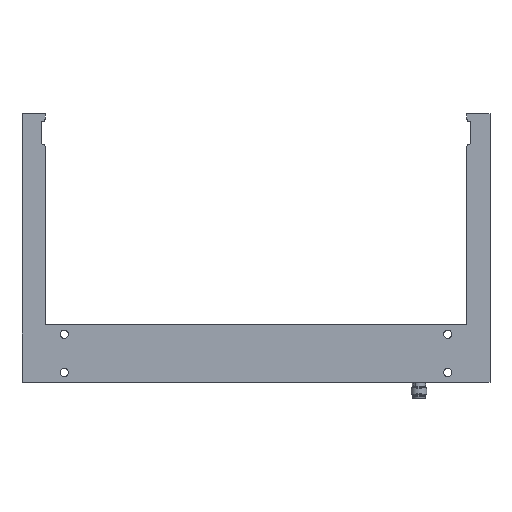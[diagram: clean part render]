
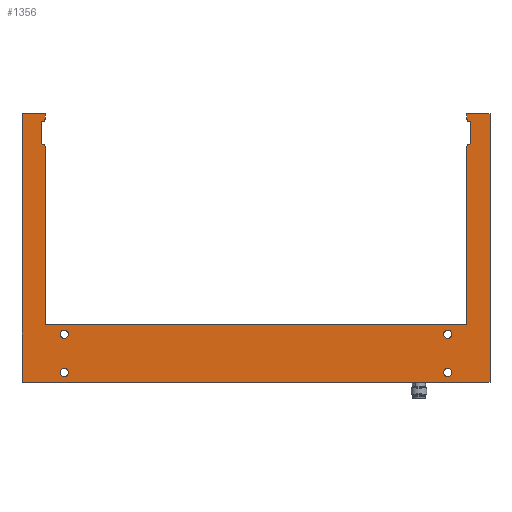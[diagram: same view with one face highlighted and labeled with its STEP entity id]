
A CAD part, top view. The second image highlights one B-rep face of the part: STEP entity #1356.
In plain terms, the highlighted planar face has unit normal (0, 0, 1).
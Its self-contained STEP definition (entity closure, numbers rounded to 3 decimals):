
#1022=PLANE('',#3515);
#1114=LINE('',#4731,#1234);
#1115=LINE('',#4734,#1235);
#1116=LINE('',#4740,#1236);
#1117=LINE('',#4746,#1237);
#1118=LINE('',#4748,#1238);
#1119=LINE('',#4750,#1239);
#1120=LINE('',#4752,#1240);
#1121=LINE('',#4754,#1241);
#1122=LINE('',#4756,#1242);
#1123=LINE('',#4758,#1243);
#1124=LINE('',#4764,#1244);
#1125=LINE('',#4770,#1245);
#1234=VECTOR('',#3878,1.);
#1235=VECTOR('',#3879,1.);
#1236=VECTOR('',#3884,1.);
#1237=VECTOR('',#3889,1.);
#1238=VECTOR('',#3890,1.);
#1239=VECTOR('',#3891,1.);
#1240=VECTOR('',#3892,1.);
#1241=VECTOR('',#3893,1.);
#1242=VECTOR('',#3894,1.);
#1243=VECTOR('',#3895,1.);
#1244=VECTOR('',#3900,1.);
#1245=VECTOR('',#3905,1.);
#1356=ADVANCED_FACE('',(#1642,#1643,#1644,#1645,#1646),#1022,.T.);
#1642=FACE_BOUND('',#1837,.T.);
#1643=FACE_BOUND('',#1838,.T.);
#1644=FACE_BOUND('',#1839,.T.);
#1645=FACE_BOUND('',#1840,.T.);
#1646=FACE_BOUND('',#1841,.T.);
#1837=EDGE_LOOP('',(#2138,#2139,#2140,#2141,#2142,#2143,#2144,#2145,#2146,
#2147,#2148,#2149,#2150,#2151,#2152,#2153,#2154,#2155,#2156,#2157));
#1838=EDGE_LOOP('',(#2158));
#1839=EDGE_LOOP('',(#2159));
#1840=EDGE_LOOP('',(#2160));
#1841=EDGE_LOOP('',(#2161));
#2138=ORIENTED_EDGE('',*,*,#3011,.F.);
#2139=ORIENTED_EDGE('',*,*,#3012,.F.);
#2140=ORIENTED_EDGE('',*,*,#3013,.F.);
#2141=ORIENTED_EDGE('',*,*,#3014,.F.);
#2142=ORIENTED_EDGE('',*,*,#3015,.T.);
#2143=ORIENTED_EDGE('',*,*,#3016,.F.);
#2144=ORIENTED_EDGE('',*,*,#3017,.F.);
#2145=ORIENTED_EDGE('',*,*,#3018,.F.);
#2146=ORIENTED_EDGE('',*,*,#3019,.F.);
#2147=ORIENTED_EDGE('',*,*,#3020,.F.);
#2148=ORIENTED_EDGE('',*,*,#3021,.F.);
#2149=ORIENTED_EDGE('',*,*,#3022,.F.);
#2150=ORIENTED_EDGE('',*,*,#3023,.F.);
#2151=ORIENTED_EDGE('',*,*,#3024,.F.);
#2152=ORIENTED_EDGE('',*,*,#3025,.F.);
#2153=ORIENTED_EDGE('',*,*,#3026,.F.);
#2154=ORIENTED_EDGE('',*,*,#3027,.T.);
#2155=ORIENTED_EDGE('',*,*,#3028,.F.);
#2156=ORIENTED_EDGE('',*,*,#3029,.F.);
#2157=ORIENTED_EDGE('',*,*,#3030,.F.);
#2158=ORIENTED_EDGE('',*,*,#3031,.T.);
#2159=ORIENTED_EDGE('',*,*,#3032,.T.);
#2160=ORIENTED_EDGE('',*,*,#3033,.T.);
#2161=ORIENTED_EDGE('',*,*,#3034,.T.);
#2774=VERTEX_POINT('',#4732);
#2775=VERTEX_POINT('',#4733);
#2776=VERTEX_POINT('',#4735);
#2777=VERTEX_POINT('',#4737);
#2778=VERTEX_POINT('',#4739);
#2779=VERTEX_POINT('',#4741);
#2780=VERTEX_POINT('',#4743);
#2781=VERTEX_POINT('',#4745);
#2782=VERTEX_POINT('',#4747);
#2783=VERTEX_POINT('',#4749);
#2784=VERTEX_POINT('',#4751);
#2785=VERTEX_POINT('',#4753);
#2786=VERTEX_POINT('',#4755);
#2787=VERTEX_POINT('',#4757);
#2788=VERTEX_POINT('',#4759);
#2789=VERTEX_POINT('',#4761);
#2790=VERTEX_POINT('',#4763);
#2791=VERTEX_POINT('',#4765);
#2792=VERTEX_POINT('',#4767);
#2793=VERTEX_POINT('',#4769);
#2794=VERTEX_POINT('',#4772);
#2795=VERTEX_POINT('',#4774);
#2796=VERTEX_POINT('',#4776);
#2797=VERTEX_POINT('',#4778);
#3011=EDGE_CURVE('',#2774,#2775,#1114,.T.);
#3012=EDGE_CURVE('',#2776,#2774,#1115,.T.);
#3013=EDGE_CURVE('',#2777,#2776,#3329,.T.);
#3014=EDGE_CURVE('',#2778,#2777,#3330,.T.);
#3015=EDGE_CURVE('',#2778,#2779,#1116,.T.);
#3016=EDGE_CURVE('',#2780,#2779,#3331,.T.);
#3017=EDGE_CURVE('',#2781,#2780,#3332,.T.);
#3018=EDGE_CURVE('',#2782,#2781,#1117,.T.);
#3019=EDGE_CURVE('',#2783,#2782,#1118,.T.);
#3020=EDGE_CURVE('',#2784,#2783,#1119,.T.);
#3021=EDGE_CURVE('',#2785,#2784,#1120,.T.);
#3022=EDGE_CURVE('',#2786,#2785,#1121,.T.);
#3023=EDGE_CURVE('',#2787,#2786,#1122,.T.);
#3024=EDGE_CURVE('',#2788,#2787,#1123,.T.);
#3025=EDGE_CURVE('',#2789,#2788,#3333,.T.);
#3026=EDGE_CURVE('',#2790,#2789,#3334,.T.);
#3027=EDGE_CURVE('',#2790,#2791,#1124,.T.);
#3028=EDGE_CURVE('',#2792,#2791,#3335,.T.);
#3029=EDGE_CURVE('',#2793,#2792,#3336,.T.);
#3030=EDGE_CURVE('',#2775,#2793,#1125,.T.);
#3031=EDGE_CURVE('',#2794,#2794,#3337,.T.);
#3032=EDGE_CURVE('',#2795,#2795,#3338,.T.);
#3033=EDGE_CURVE('',#2796,#2796,#3339,.T.);
#3034=EDGE_CURVE('',#2797,#2797,#3340,.T.);
#3329=CIRCLE('',#3503,1.);
#3330=CIRCLE('',#3504,1.);
#3331=CIRCLE('',#3505,1.);
#3332=CIRCLE('',#3506,1.);
#3333=CIRCLE('',#3507,1.);
#3334=CIRCLE('',#3508,1.);
#3335=CIRCLE('',#3509,1.);
#3336=CIRCLE('',#3510,1.);
#3337=CIRCLE('',#3511,2.15);
#3338=CIRCLE('',#3512,2.15);
#3339=CIRCLE('',#3513,2.15);
#3340=CIRCLE('',#3514,2.15);
#3503=AXIS2_PLACEMENT_3D('',#4736,#3880,#3881);
#3504=AXIS2_PLACEMENT_3D('',#4738,#3882,#3883);
#3505=AXIS2_PLACEMENT_3D('',#4742,#3885,#3886);
#3506=AXIS2_PLACEMENT_3D('',#4744,#3887,#3888);
#3507=AXIS2_PLACEMENT_3D('',#4760,#3896,#3897);
#3508=AXIS2_PLACEMENT_3D('',#4762,#3898,#3899);
#3509=AXIS2_PLACEMENT_3D('',#4766,#3901,#3902);
#3510=AXIS2_PLACEMENT_3D('',#4768,#3903,#3904);
#3511=AXIS2_PLACEMENT_3D('',#4771,#3906,#3907);
#3512=AXIS2_PLACEMENT_3D('',#4773,#3908,#3909);
#3513=AXIS2_PLACEMENT_3D('',#4775,#3910,#3911);
#3514=AXIS2_PLACEMENT_3D('',#4777,#3912,#3913);
#3515=AXIS2_PLACEMENT_3D('',#4779,#3914,#3915);
#3878=DIRECTION('',(1.,0.,0.));
#3879=DIRECTION('',(0.,-1.,0.));
#3880=DIRECTION('',(0.,0.,-1.));
#3881=DIRECTION('',(0.707,0.707,0.));
#3882=DIRECTION('',(0.,0.,1.));
#3883=DIRECTION('',(-0.707,-0.707,0.));
#3884=DIRECTION('',(0.,1.,0.));
#3885=DIRECTION('',(0.,0.,1.));
#3886=DIRECTION('',(-0.707,0.707,0.));
#3887=DIRECTION('',(0.,0.,-1.));
#3888=DIRECTION('',(0.707,-0.707,0.));
#3889=DIRECTION('',(0.,-1.,0.));
#3890=DIRECTION('',(1.,0.,0.));
#3891=DIRECTION('',(0.,1.,0.));
#3892=DIRECTION('',(-1.,0.,0.));
#3893=DIRECTION('',(0.,-1.,0.));
#3894=DIRECTION('',(1.,0.,0.));
#3895=DIRECTION('',(0.,1.,0.));
#3896=DIRECTION('',(0.,0.,-1.));
#3897=DIRECTION('',(-0.707,-0.707,0.));
#3898=DIRECTION('',(0.,0.,1.));
#3899=DIRECTION('',(0.707,0.707,0.));
#3900=DIRECTION('',(0.,-1.,0.));
#3901=DIRECTION('',(0.,0.,1.));
#3902=DIRECTION('',(0.707,-0.707,0.));
#3903=DIRECTION('',(0.,0.,-1.));
#3904=DIRECTION('',(-0.707,0.707,0.));
#3905=DIRECTION('',(0.,1.,0.));
#3906=DIRECTION('',(0.,0.,-1.));
#3907=DIRECTION('',(-1.,0.,0.));
#3908=DIRECTION('',(0.,0.,-1.));
#3909=DIRECTION('',(-1.,0.,0.));
#3910=DIRECTION('',(0.,0.,-1.));
#3911=DIRECTION('',(-1.,0.,0.));
#3912=DIRECTION('',(0.,0.,-1.));
#3913=DIRECTION('',(-1.,0.,0.));
#3914=DIRECTION('',(0.,0.,1.));
#3915=DIRECTION('',(-1.,0.,0.));
#4731=CARTESIAN_POINT('',(220.,30.,12.));
#4732=CARTESIAN_POINT('',(0.,30.,12.));
#4733=CARTESIAN_POINT('',(220.,30.,12.));
#4734=CARTESIAN_POINT('',(0.,0.,12.));
#4735=CARTESIAN_POINT('',(0.,123.,12.));
#4736=CARTESIAN_POINT('',(-1.,123.,12.));
#4737=CARTESIAN_POINT('',(-1.,124.,12.));
#4738=CARTESIAN_POINT('',(-1.,125.,12.));
#4739=CARTESIAN_POINT('',(-2.,125.,12.));
#4740=CARTESIAN_POINT('',(-2.,103.,12.));
#4741=CARTESIAN_POINT('',(-2.,135.,12.));
#4742=CARTESIAN_POINT('',(-1.,135.,12.));
#4743=CARTESIAN_POINT('',(-1.,136.,12.));
#4744=CARTESIAN_POINT('',(-1.,137.,12.));
#4745=CARTESIAN_POINT('',(0.,137.,12.));
#4746=CARTESIAN_POINT('',(0.,0.,12.));
#4747=CARTESIAN_POINT('',(0.,140.,12.));
#4748=CARTESIAN_POINT('',(0.,140.,12.));
#4749=CARTESIAN_POINT('',(-12.,140.,12.));
#4750=CARTESIAN_POINT('',(-12.,140.,12.));
#4751=CARTESIAN_POINT('',(-12.,0.,12.));
#4752=CARTESIAN_POINT('',(0.,0.,12.));
#4753=CARTESIAN_POINT('',(232.,0.,12.));
#4754=CARTESIAN_POINT('',(232.,140.,12.));
#4755=CARTESIAN_POINT('',(232.,140.,12.));
#4756=CARTESIAN_POINT('',(220.,140.,12.));
#4757=CARTESIAN_POINT('',(220.,140.,12.));
#4758=CARTESIAN_POINT('',(220.,0.,12.));
#4759=CARTESIAN_POINT('',(220.,137.,12.));
#4760=CARTESIAN_POINT('',(221.,137.,12.));
#4761=CARTESIAN_POINT('',(221.,136.,12.));
#4762=CARTESIAN_POINT('',(221.,135.,12.));
#4763=CARTESIAN_POINT('',(222.,135.,12.));
#4764=CARTESIAN_POINT('',(222.,103.,12.));
#4765=CARTESIAN_POINT('',(222.,125.,12.));
#4766=CARTESIAN_POINT('',(221.,125.,12.));
#4767=CARTESIAN_POINT('',(221.,124.,12.));
#4768=CARTESIAN_POINT('',(221.,123.,12.));
#4769=CARTESIAN_POINT('',(220.,123.,12.));
#4770=CARTESIAN_POINT('',(220.,0.,12.));
#4771=CARTESIAN_POINT('',(210.,25.,12.));
#4772=CARTESIAN_POINT('',(207.85,25.,12.));
#4773=CARTESIAN_POINT('',(10.,5.,12.));
#4774=CARTESIAN_POINT('',(7.85,5.,12.));
#4775=CARTESIAN_POINT('',(10.,25.,12.));
#4776=CARTESIAN_POINT('',(7.85,25.,12.));
#4777=CARTESIAN_POINT('',(210.,5.,12.));
#4778=CARTESIAN_POINT('',(207.85,5.,12.));
#4779=CARTESIAN_POINT('',(110.,15.,12.));
